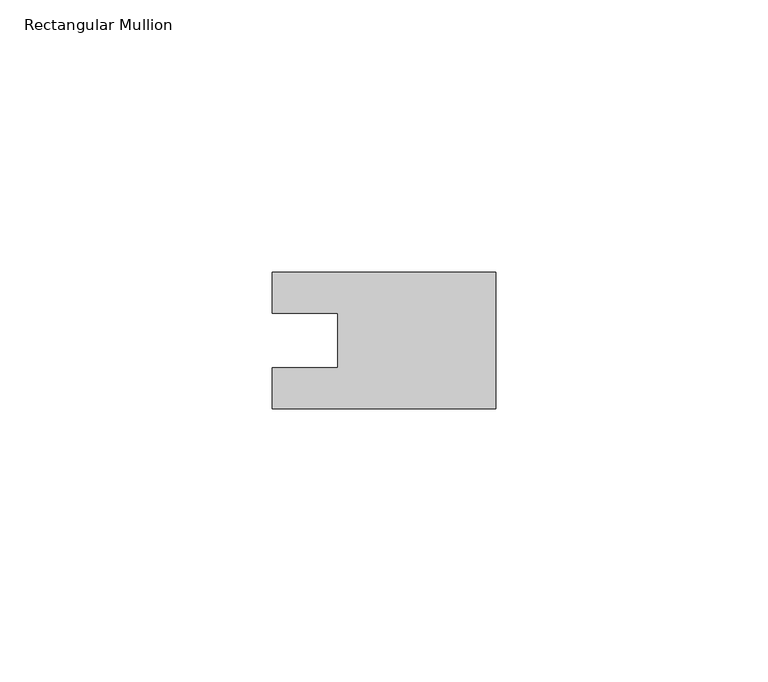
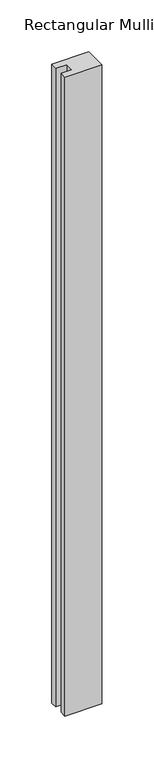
"""IFC4 building model written with IfcOpenShell, lengths in millimetres: member geometry, Rectangular Mullion : 22_IM_HGS_DET1_boven_40mm."""

from ifc_helpers import new_model, si_unit, frame, origin, place, context, project, spatial, polyline, outline, extrude, source, transform, mapped, element, save


def rectangular_mullion_ccb339f7(model_context):
    return source(origin(), model_context, "Body", "SweptSolid", [
        extrude(outline(polyline([(0.0, 12.5), (0.0, -12.5), (-41.0, -12.5), (-41.0, -5.0), (-29.0, -5.0), (-29.0, 5.0), (-41.0, 5.0), (-41.0, 12.5), (0.0, 12.5)])), frame((0.0, 0.0, -750.0000003), z_axis=(0.0, 0.0, 1.0), x_axis=(1.0, 0.0, 0.0)), (0.0, 0.0, 1.0), 750.0000003),
    ])


if __name__ == "__main__":
    model = new_model("IFC4")
    model_context = context("Model", 3, world=origin())
    ifc_project = project(units=[si_unit("LENGTHUNIT", "METRE", prefix="MILLI")], contexts=[model_context])
    site = spatial("IfcSite", under=ifc_project)
    building = spatial("IfcBuilding", under=site)
    placement = place(None, origin())
    rectangular_mullion_shape = rectangular_mullion_ccb339f7(model_context)
    element("IfcMember", 1, ObjectType="Rectangular Mullion : 22_IM_HGS_DET1_boven_40mm", at=placement, inside=building, context=model_context, shape_type="MappedRepresentation", body=[
        mapped(rectangular_mullion_shape, transform((0.0, 0.0, 0.0), x_axis=(1.0, 0.0, 0.0), y_axis=(0.0, 1.0, 0.0), z_axis=(0.0, 0.0, 1.0))),
    ])
    save(model, "model.ifc")
